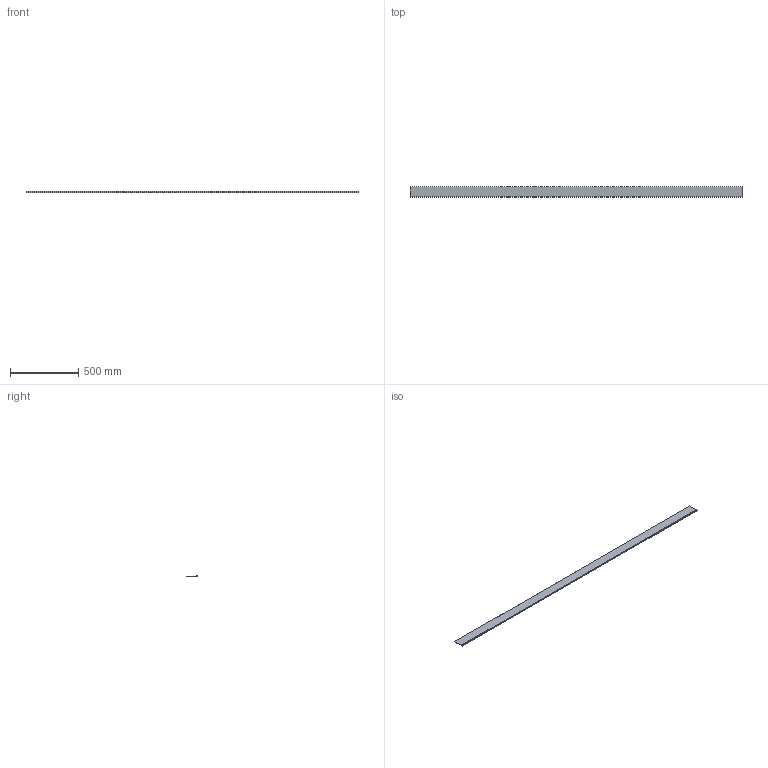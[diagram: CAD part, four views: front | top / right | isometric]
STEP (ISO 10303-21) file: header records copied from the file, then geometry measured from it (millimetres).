
FILE_DESCRIPTION((''),'2;1');
FILE_NAME('P04-05_D','2017-01-20T',('jenni.wallner'),(''),'PRO/ENGINEER BY PARAMETRIC TECHNOLOGY CORPORATION, 2012420','PRO/ENGINEER BY PARAMETRIC TECHNOLOGY CORPORATION, 2012420','');
FILE_SCHEMA(('CONFIG_CONTROL_DESIGN'));
Length unit declared in the file: inch
Products named in the file (1): P04-05_D
Bounding box: 2438.4 x 78.49 x 8.38 mm (x, y, z)
Volume: 605440.2 mm3; surface area: 420412.8 mm2
Topology: 1 solids, 1 shells, 22 faces, 60 edges, 40 vertices
Faces by surface type: plane 12, cylinder 10
Entity records: 744 total; most frequent: DIRECTION 124, CARTESIAN_POINT 122, ORIENTED_EDGE 120, EDGE_CURVE 60, AXIS2_PLACEMENT_3D 42, VECTOR 40, LINE 40, VERTEX_POINT 40
